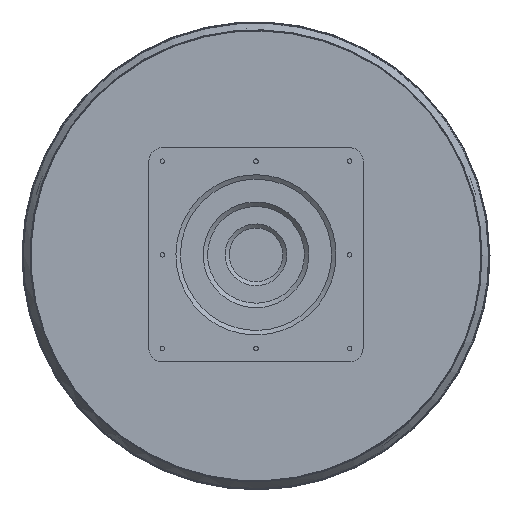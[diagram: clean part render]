
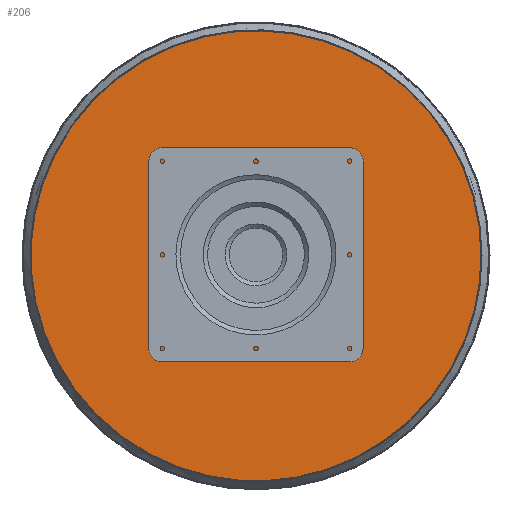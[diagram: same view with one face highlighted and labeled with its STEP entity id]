
A CAD part, top view. The second image highlights one B-rep face of the part: STEP entity #206.
In plain terms, the highlighted free-form (B-spline) face has degree [1, 2] with [2, 9] control points.
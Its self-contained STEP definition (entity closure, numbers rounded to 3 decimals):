
#206=ADVANCED_FACE('',(#379),#2516,.T.);
#379=FACE_OUTER_BOUND('',#581,.T.);
#581=EDGE_LOOP('',(#1287,#1288,#1289,#1290));
#1287=ORIENTED_EDGE('',*,*,#1706,.T.);
#1288=ORIENTED_EDGE('',*,*,#1707,.T.);
#1289=ORIENTED_EDGE('',*,*,#1551,.T.);
#1290=ORIENTED_EDGE('',*,*,#1707,.F.);
#1551=EDGE_CURVE('',#2249,#2249,#1929,.T.);
#1706=EDGE_CURVE('',#2332,#2332,#2084,.T.);
#1707=EDGE_CURVE('',#2332,#2249,#1769,.T.);
#1769=B_SPLINE_CURVE_WITH_KNOTS('',1,(#5501,#5502),.UNSPECIFIED.,.F.,.F.,
(2,2),(273.296,273.753),.UNSPECIFIED.);
#1929=(
BOUNDED_CURVE()
B_SPLINE_CURVE(2,(#4733,#4734,#4735,#4736,#4737,#4738,#4739,#4740,#4741),
 .UNSPECIFIED.,.T.,.F.)
B_SPLINE_CURVE_WITH_KNOTS((3,2,2,2,3),(0.,408.375,816.75,
1225.125,1633.5),.UNSPECIFIED.)
CURVE()
GEOMETRIC_REPRESENTATION_ITEM()
RATIONAL_B_SPLINE_CURVE((1.,0.707,1.,0.707,1.,0.707,
1.,0.707,1.))
REPRESENTATION_ITEM('')
);
#2084=(
BOUNDED_CURVE()
B_SPLINE_CURVE(2,(#5492,#5493,#5494,#5495,#5496,#5497,#5498,#5499,#5500),
 .UNSPECIFIED.,.T.,.F.)
B_SPLINE_CURVE_WITH_KNOTS((3,2,2,2,3),(0.,33.537,67.073,
100.61,134.146),.UNSPECIFIED.)
CURVE()
GEOMETRIC_REPRESENTATION_ITEM()
RATIONAL_B_SPLINE_CURVE((1.,0.707,1.,0.707,1.,0.707,
1.,0.707,1.))
REPRESENTATION_ITEM('')
);
#2249=VERTEX_POINT('',#4101);
#2332=VERTEX_POINT('',#4184);
#2516=(
BOUNDED_SURFACE()
B_SPLINE_SURFACE(1,2,((#3959,#3960,#3961,#3962,#3963,#3964,#3965,#3966,
#3967),(#3968,#3969,#3970,#3971,#3972,#3973,#3974,#3975,#3976)),
 .UNSPECIFIED.,.F.,.F.,.F.)
B_SPLINE_SURFACE_WITH_KNOTS((2,2),(3,2,2,2,3),(273.253,273.753),
(0.,408.375,816.75,1225.125,1633.5),
 .UNSPECIFIED.)
GEOMETRIC_REPRESENTATION_ITEM()
RATIONAL_B_SPLINE_SURFACE(((1.,0.707,1.,0.707,1.,
0.707,1.,0.707,1.),(1.,0.707,1.,0.707,
1.,0.707,1.,0.707,1.)))
REPRESENTATION_ITEM('')
SURFACE()
);
#3959=CARTESIAN_POINT('',(0.,0.,27.99));
#3960=CARTESIAN_POINT('',(0.,0.,27.99));
#3961=CARTESIAN_POINT('',(0.,0.,27.99));
#3962=CARTESIAN_POINT('',(0.,0.,27.99));
#3963=CARTESIAN_POINT('',(0.,0.,27.99));
#3964=CARTESIAN_POINT('',(0.,0.,27.99));
#3965=CARTESIAN_POINT('',(0.,0.,27.99));
#3966=CARTESIAN_POINT('',(0.,0.,27.99));
#3967=CARTESIAN_POINT('',(0.,0.,27.99));
#3968=CARTESIAN_POINT('',(249.882,0.,27.99));
#3969=CARTESIAN_POINT('',(249.882,249.882,27.99));
#3970=CARTESIAN_POINT('',(0.,249.882,27.99));
#3971=CARTESIAN_POINT('',(-249.882,249.882,27.99));
#3972=CARTESIAN_POINT('',(-249.882,0.,27.99));
#3973=CARTESIAN_POINT('',(-249.882,-249.882,27.99));
#3974=CARTESIAN_POINT('',(0.,-249.882,27.99));
#3975=CARTESIAN_POINT('',(249.882,-249.882,27.99));
#3976=CARTESIAN_POINT('',(249.882,0.,27.99));
#4101=CARTESIAN_POINT('',(249.882,0.,27.99));
#4184=CARTESIAN_POINT('',(21.35,0.,27.99));
#4733=CARTESIAN_POINT('',(249.882,0.,27.99));
#4734=CARTESIAN_POINT('',(249.882,249.882,27.99));
#4735=CARTESIAN_POINT('',(0.,249.882,27.99));
#4736=CARTESIAN_POINT('',(-249.882,249.882,27.99));
#4737=CARTESIAN_POINT('',(-249.882,0.,27.99));
#4738=CARTESIAN_POINT('',(-249.882,-249.882,27.99));
#4739=CARTESIAN_POINT('',(0.,-249.882,27.99));
#4740=CARTESIAN_POINT('',(249.882,-249.882,27.99));
#4741=CARTESIAN_POINT('',(249.882,0.,27.99));
#5492=CARTESIAN_POINT('',(21.35,0.,27.99));
#5493=CARTESIAN_POINT('',(21.35,-21.35,27.99));
#5494=CARTESIAN_POINT('',(0.,-21.35,27.99));
#5495=CARTESIAN_POINT('',(-21.35,-21.35,27.99));
#5496=CARTESIAN_POINT('',(-21.35,0.,27.99));
#5497=CARTESIAN_POINT('',(-21.35,21.35,27.99));
#5498=CARTESIAN_POINT('',(0.,21.35,27.99));
#5499=CARTESIAN_POINT('',(21.35,21.35,27.99));
#5500=CARTESIAN_POINT('',(21.35,0.,27.99));
#5501=CARTESIAN_POINT('',(21.35,0.,27.99));
#5502=CARTESIAN_POINT('',(249.882,0.,27.99));
